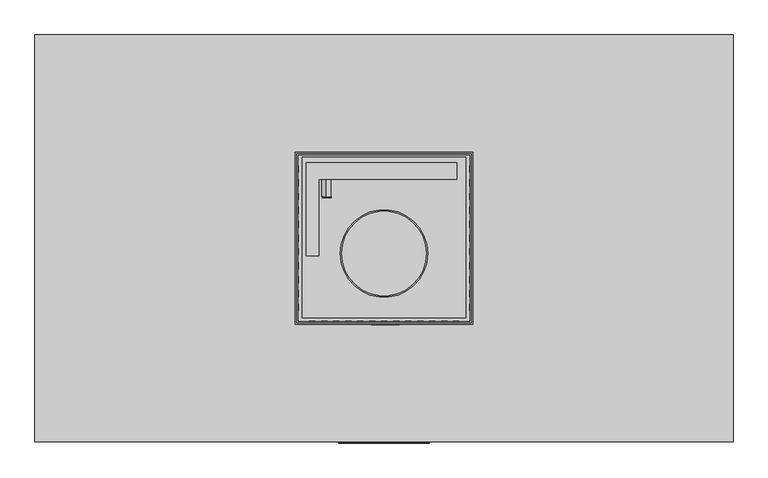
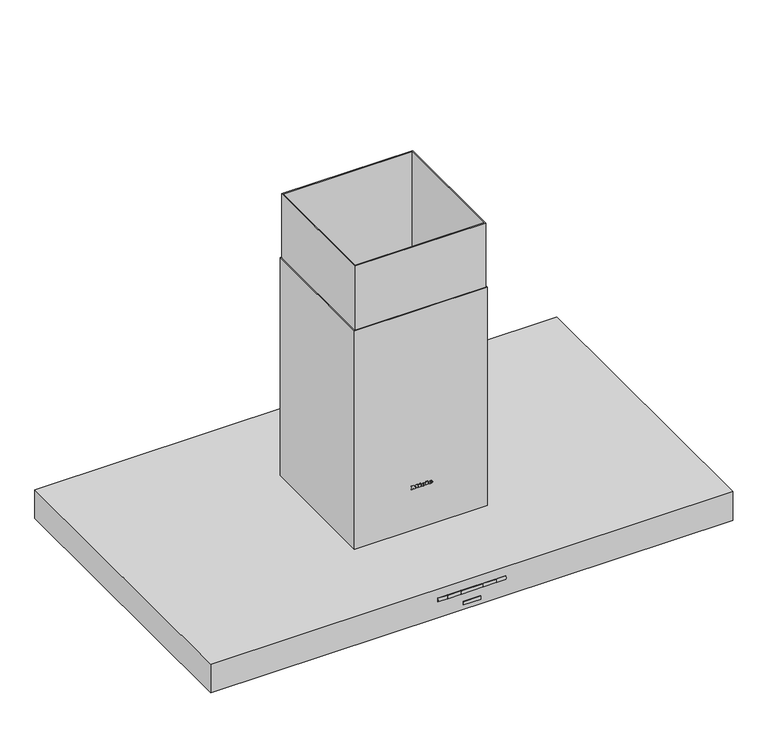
"""IFC4 building model written with IfcOpenShell, lengths in millimetres: proxy geometry, 10866570_CN_DA4248VDC_EDST : 28424855_CN_10866570_DA4248VDC_EDST."""

from ifc_helpers import new_model, si_unit, point, frame, frame_2d, origin, origin_with_axes, place, context, project, spatial, polyline, circle_curve, ellipse_curve, trimmed, segment, composite_curve, outline, extrude, faceted_brep, source, transform, mapped, element, save
from ifc_brep_helpers import plane_surface, cylinder_surface, revolved_surface, extruded_surface, advanced_brep


def specialty_equipment_4de7fc39(model_context):
    return source(origin(), model_context, "Body", "SolidModel", [
        advanced_brep(
        [(-520.0, -200.0, 7.0), (-493.4101907, -200.0, 11.6885008), (-546.5898093, -200.0, 2.3114992), (-493.9261123, -200.0, 10.5821033), (-545.7265913, -200.0, 1.4482812), (-519.8263518, -200.0, 6.0151922)],
        [
            (0, 1),
            (1, 2, circle_curve(frame((-520.0, -200.0, 7.0), z_axis=(-0.17364817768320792, 0.0, 0.9848077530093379), x_axis=(0.9848077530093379, 0.0, 0.17364817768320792)), 27.0)),
            (2, 0),
            (2, 1, circle_curve(frame((-520.0, -200.0, 7.0), z_axis=(-0.17364817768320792, 0.0, 0.9848077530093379), x_axis=(0.9848077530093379, 0.0, 0.17364817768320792)), 27.0)),
            (1, 3),
            (3, 4, circle_curve(frame((-519.8263518, -200.0, 6.0151922), z_axis=(-0.17364817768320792, 0.0, 0.9848077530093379), x_axis=(0.9848077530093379, 0.0, 0.17364817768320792)), 26.2997925)),
            (4, 2),
            (4, 3, circle_curve(frame((-519.8263518, -200.0, 6.0151922), z_axis=(-0.17364817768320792, 0.0, 0.9848077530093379), x_axis=(0.9848077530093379, 0.0, 0.17364817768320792)), 26.2997925)),
            (3, 5),
            (5, 4),
        ],
        [
            plane_surface(frame((-520.0, -200.0, 7.0), z_axis=(-0.17364817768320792, 0.0, 0.9848077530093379), x_axis=(0.9848077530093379, 0.0, 0.17364817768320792))),
            revolved_surface(polyline([(-493.9261123, -200.0, 10.5821033), (-493.4101907, -200.0, 11.6885008)]), (-520.0, -200.0, 7.0), (-0.17364817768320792, 0.0, 0.9848077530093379)),
            plane_surface(frame((-519.8263518, -200.0, 6.0151922), z_axis=(0.17364817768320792, 0.0, -0.9848077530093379), x_axis=(0.9848077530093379, 0.0, 0.17364817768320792))),
        ],
        [
            (0, [[1, 2, 3]]),
            (0, [[-3, 4, -1]]),
            (1, [[-2, 5, 6, 7]]),
            (1, [[-4, -7, 8, -5]]),
            (2, [[-6, 9, 10]]),
            (2, [[-8, -10, -9]]),
        ],
    ),
        advanced_brep(
        [(-546.5898093, 200.0, 2.3114992), (-493.4101907, 200.0, 11.6885008), (-520.0, 200.0, 7.0), (-545.7265913, 200.0, 1.4482812), (-493.9261123, 200.0, 10.5821033), (-519.8263518, 200.0, 6.0151922)],
        [
            (0, 1, circle_curve(frame((-520.0, 200.0, 7.0), z_axis=(-0.17364817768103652, 0.0, 0.9848077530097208), x_axis=(0.9848077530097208, 0.0, 0.17364817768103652)), 27.0)),
            (1, 2),
            (2, 0),
            (1, 0, circle_curve(frame((-520.0, 200.0, 7.0), z_axis=(-0.17364817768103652, 0.0, 0.9848077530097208), x_axis=(0.9848077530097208, 0.0, 0.17364817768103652)), 27.0)),
            (3, 4, circle_curve(frame((-519.8263518, 200.0, 6.0151922), z_axis=(-0.17364817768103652, 0.0, 0.9848077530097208), x_axis=(0.9848077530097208, 0.0, 0.17364817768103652)), 26.2997925)),
            (4, 1),
            (0, 3),
            (4, 3, circle_curve(frame((-519.8263518, 200.0, 6.0151922), z_axis=(-0.17364817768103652, 0.0, 0.9848077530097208), x_axis=(0.9848077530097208, 0.0, 0.17364817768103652)), 26.2997925)),
            (5, 4),
            (3, 5),
        ],
        [
            plane_surface(frame((-520.0, 200.0, 7.0), z_axis=(-0.17364817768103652, 0.0, 0.9848077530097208), x_axis=(0.9848077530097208, 0.0, 0.17364817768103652))),
            revolved_surface(polyline([(-493.4101907, 200.0, 11.6885008), (-493.9261123, 200.0, 10.5821033)]), (-520.0, 200.0, 7.0), (0.17364817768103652, 0.0, -0.9848077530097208)),
            plane_surface(frame((-519.8263518, 200.0, 6.0151922), z_axis=(0.17364817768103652, 0.0, -0.9848077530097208), x_axis=(0.9848077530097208, 0.0, 0.17364817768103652))),
        ],
        [
            (0, [[1, 2, 3]]),
            (0, [[4, -3, -2]]),
            (1, [[5, 6, -1, 7]]),
            (1, [[8, -7, -4, -6]]),
            (2, [[9, -5, 10]]),
            (2, [[-10, -8, -9]]),
        ],
    ),
        advanced_brep(
        [(546.5898093, -200.0, 2.3114992), (493.4101907, -200.0, 11.6885008), (520.0, -200.0, 7.0), (545.7265913, -200.0, 1.4482812), (493.9261123, -200.0, 10.5821033), (519.8263518, -200.0, 6.0151922)],
        [
            (0, 1, circle_curve(frame((520.0, -200.0, 7.0), z_axis=(0.17364817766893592, 0.0, 0.9848077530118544), x_axis=(-0.9848077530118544, 0.0, 0.17364817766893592)), 27.0)),
            (1, 2),
            (2, 0),
            (1, 0, circle_curve(frame((520.0, -200.0, 7.0), z_axis=(0.17364817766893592, 0.0, 0.9848077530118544), x_axis=(-0.9848077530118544, 0.0, 0.17364817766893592)), 27.0)),
            (3, 4, circle_curve(frame((519.8263518, -200.0, 6.0151922), z_axis=(0.17364817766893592, 0.0, 0.9848077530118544), x_axis=(-0.9848077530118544, 0.0, 0.17364817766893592)), 26.2997925)),
            (4, 1),
            (0, 3),
            (4, 3, circle_curve(frame((519.8263518, -200.0, 6.0151922), z_axis=(0.17364817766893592, 0.0, 0.9848077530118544), x_axis=(-0.9848077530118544, 0.0, 0.17364817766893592)), 26.2997925)),
            (5, 4),
            (3, 5),
        ],
        [
            plane_surface(frame((520.0, -200.0, 7.0), z_axis=(0.17364817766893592, 0.0, 0.9848077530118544), x_axis=(-0.9848077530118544, 0.0, 0.17364817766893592))),
            revolved_surface(polyline([(493.4101907, -200.0, 11.6885008), (493.9261123, -200.0, 10.5821033)]), (520.0, -200.0, 7.0), (-0.17364817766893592, 0.0, -0.9848077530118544)),
            plane_surface(frame((519.8263518, -200.0, 6.0151922), z_axis=(-0.17364817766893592, 0.0, -0.9848077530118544), x_axis=(-0.9848077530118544, 0.0, 0.17364817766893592))),
        ],
        [
            (0, [[1, 2, 3]]),
            (0, [[4, -3, -2]]),
            (1, [[5, 6, -1, 7]]),
            (1, [[8, -7, -4, -6]]),
            (2, [[9, -5, 10]]),
            (2, [[-10, -8, -9]]),
        ],
    ),
        advanced_brep(
        [(520.0, 200.0, 7.0), (493.4101907, 200.0, 11.6885008), (546.5898093, 200.0, 2.3114992), (493.9261123, 200.0, 10.5821033), (545.7265913, 200.0, 1.4482812), (519.8263518, 200.0, 6.0151922)],
        [
            (0, 1),
            (1, 2, circle_curve(frame((520.0, 200.0, 7.0), z_axis=(0.17364817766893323, 0.0, 0.9848077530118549), x_axis=(-0.9848077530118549, 0.0, 0.17364817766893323)), 27.0)),
            (2, 0),
            (2, 1, circle_curve(frame((520.0, 200.0, 7.0), z_axis=(0.17364817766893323, 0.0, 0.9848077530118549), x_axis=(-0.9848077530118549, 0.0, 0.17364817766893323)), 27.0)),
            (1, 3),
            (3, 4, circle_curve(frame((519.8263518, 200.0, 6.0151922), z_axis=(0.17364817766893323, 0.0, 0.9848077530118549), x_axis=(-0.9848077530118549, 0.0, 0.17364817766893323)), 26.2997925)),
            (4, 2),
            (4, 3, circle_curve(frame((519.8263518, 200.0, 6.0151922), z_axis=(0.17364817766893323, 0.0, 0.9848077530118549), x_axis=(-0.9848077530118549, 0.0, 0.17364817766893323)), 26.2997925)),
            (3, 5),
            (5, 4),
        ],
        [
            plane_surface(frame((520.0, 200.0, 7.0), z_axis=(0.17364817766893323, 0.0, 0.9848077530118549), x_axis=(-0.9848077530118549, 0.0, 0.17364817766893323))),
            revolved_surface(polyline([(493.9261123, 200.0, 10.5821033), (493.4101907, 200.0, 11.6885008)]), (520.0, 200.0, 7.0), (0.17364817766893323, 0.0, 0.9848077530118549)),
            plane_surface(frame((519.8263518, 200.0, 6.0151922), z_axis=(-0.17364817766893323, 0.0, -0.9848077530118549), x_axis=(-0.9848077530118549, 0.0, 0.17364817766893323))),
        ],
        [
            (0, [[1, 2, 3]]),
            (0, [[-3, 4, -1]]),
            (1, [[-2, 5, 6, 7]]),
            (1, [[-4, -7, 8, -5]]),
            (2, [[-6, 9, 10]]),
            (2, [[-8, -10, -9]]),
        ],
    ),
        faceted_brep([(-128.5, -142.5, 300.0), (-128.5, -145.0, 300.0), (-128.5, -145.0, 200.0), (-128.5, -142.5, 200.0), (150.0, 124.5, 300.0), (147.5, 124.5, 300.0), (147.5, 124.5, 200.0), (150.0, 124.5, 200.0), (-150.0, -145.0, 755.0), (-150.0, 145.0, 755.0), (-150.0, 145.0, 155.0), (-150.0, -145.0, 155.0), (-150.0, -124.5, 300.0), (-150.0, -124.5, 200.0), (-150.0, -112.6, 200.0), (-150.0, -112.6, 300.0), (-150.0, 124.5, 200.0), (-150.0, 124.5, 300.0), (-150.0, 113.5, 300.0), (-150.0, 113.5, 200.0), (-150.0, -100.7, 200.0), (-150.0, -88.8, 200.0), (-150.0, -88.8, 300.0), (-150.0, -100.7, 300.0), (-150.0, -65.0, 200.0), (-150.0, -65.0, 300.0), (-150.0, -76.9, 300.0), (-150.0, -76.9, 200.0), (-150.0, -53.1, 200.0), (-150.0, -41.2, 200.0), (-150.0, -41.2, 300.0), (-150.0, -53.1, 300.0), (-150.0, -29.3, 200.0), (-150.0, -17.4, 200.0), (-150.0, -17.4, 300.0), (-150.0, -29.3, 300.0), (-150.0, -5.5, 200.0), (-150.0, 6.4, 200.0), (-150.0, 6.4, 300.0), (-150.0, -5.5, 300.0), (-150.0, 30.2, 200.0), (-150.0, 30.2, 300.0), (-150.0, 18.3, 300.0), (-150.0, 18.3, 200.0), (-150.0, 42.1, 200.0), (-150.0, 54.0, 200.0), (-150.0, 54.0, 300.0), (-150.0, 42.1, 300.0), (-150.0, 77.8, 200.0), (-150.0, 77.8, 300.0), (-150.0, 65.9, 300.0), (-150.0, 65.9, 200.0), (-150.0, 89.7, 200.0), (-150.0, 101.6, 200.0), (-150.0, 101.6, 300.0), (-150.0, 89.7, 300.0), (147.5, -142.5, 755.0), (147.5, 142.5, 755.0), (147.5, 142.5, 155.0), (147.5, -142.5, 155.0), (147.5, -124.5, 300.0), (147.5, -124.5, 200.0), (147.5, -112.6, 200.0), (147.5, -112.6, 300.0), (147.5, 113.5, 300.0), (147.5, 113.5, 200.0), (147.5, -100.7, 300.0), (147.5, -100.7, 200.0), (147.5, -88.8, 200.0), (147.5, -88.8, 300.0), (147.5, -76.9, 300.0), (147.5, -76.9, 200.0), (147.5, -65.0, 200.0), (147.5, -65.0, 300.0), (147.5, -53.1, 300.0), (147.5, -53.1, 200.0), (147.5, -41.2, 200.0), (147.5, -41.2, 300.0), (147.5, -5.5, 300.0), (147.5, -5.5, 200.0), (147.5, 6.4, 200.0), (147.5, 6.4, 300.0), (147.5, -29.3, 300.0), (147.5, -29.3, 200.0), (147.5, -17.4, 200.0), (147.5, -17.4, 300.0), (147.5, 18.3, 300.0), (147.5, 18.3, 200.0), (147.5, 30.2, 200.0), (147.5, 30.2, 300.0), (147.5, 42.1, 300.0), (147.5, 42.1, 200.0), (147.5, 54.0, 200.0), (147.5, 54.0, 300.0), (147.5, 65.9, 300.0), (147.5, 65.9, 200.0), (147.5, 77.8, 200.0), (147.5, 77.8, 300.0), (147.5, 89.7, 300.0), (147.5, 89.7, 200.0), (147.5, 101.6, 200.0), (147.5, 101.6, 300.0), (150.0, -145.0, 755.0), (150.0, -145.0, 155.0), (128.5, -145.0, 300.0), (128.5, -145.0, 200.0), (118.7, -145.0, 200.0), (118.7, -145.0, 300.0), (-118.2, -145.0, 300.0), (-118.2, -145.0, 200.0), (-107.9, -145.0, 300.0), (-97.6, -145.0, 300.0), (-97.6, -145.0, 200.0), (-107.9, -145.0, 200.0), (-87.3, -145.0, 300.0), (-77.0, -145.0, 300.0), (-77.0, -145.0, 200.0), (-87.3, -145.0, 200.0), (-66.7, -145.0, 300.0), (-56.4, -145.0, 300.0), (-56.4, -145.0, 200.0), (-66.7, -145.0, 200.0), (-46.1, -145.0, 300.0), (-35.8, -145.0, 300.0), (-35.8, -145.0, 200.0), (-46.1, -145.0, 200.0), (-25.5, -145.0, 300.0), (-15.2, -145.0, 300.0), (-15.2, -145.0, 200.0), (-25.5, -145.0, 200.0), (15.7, -145.0, 300.0), (26.0, -145.0, 300.0), (26.0, -145.0, 200.0), (15.7, -145.0, 200.0), (98.1, -145.0, 300.0), (108.4, -145.0, 300.0), (108.4, -145.0, 200.0), (98.1, -145.0, 200.0), (36.3, -145.0, 300.0), (46.6, -145.0, 300.0), (46.6, -145.0, 200.0), (36.3, -145.0, 200.0), (-4.9, -145.0, 300.0), (5.4, -145.0, 300.0), (5.4, -145.0, 200.0), (-4.9, -145.0, 200.0), (56.9, -145.0, 300.0), (67.2, -145.0, 300.0), (67.2, -145.0, 200.0), (56.9, -145.0, 200.0), (77.5, -145.0, 300.0), (87.8, -145.0, 300.0), (87.8, -145.0, 200.0), (77.5, -145.0, 200.0), (-147.5, 142.5, 755.0), (-147.5, 142.5, 155.0), (150.0, 145.0, 755.0), (-147.5, -142.5, 755.0), (150.0, 145.0, 155.0), (-147.5, -142.5, 155.0), (128.5, -142.5, 200.0), (128.5, -142.5, 300.0), (118.7, -142.5, 300.0), (118.7, -142.5, 200.0), (-118.2, -142.5, 200.0), (-118.2, -142.5, 300.0), (-97.6, -142.5, 300.0), (-107.9, -142.5, 300.0), (-107.9, -142.5, 200.0), (-97.6, -142.5, 200.0), (-77.0, -142.5, 300.0), (-87.3, -142.5, 300.0), (-87.3, -142.5, 200.0), (-77.0, -142.5, 200.0), (-56.4, -142.5, 300.0), (-66.7, -142.5, 300.0), (-66.7, -142.5, 200.0), (-56.4, -142.5, 200.0), (-35.8, -142.5, 300.0), (-46.1, -142.5, 300.0), (-46.1, -142.5, 200.0), (-35.8, -142.5, 200.0), (-15.2, -142.5, 300.0), (-25.5, -142.5, 300.0), (-25.5, -142.5, 200.0), (-15.2, -142.5, 200.0), (5.4, -142.5, 300.0), (-4.9, -142.5, 300.0), (-4.9, -142.5, 200.0), (5.4, -142.5, 200.0), (26.0, -142.5, 300.0), (15.7, -142.5, 300.0), (15.7, -142.5, 200.0), (26.0, -142.5, 200.0), (46.6, -142.5, 300.0), (36.3, -142.5, 300.0), (36.3, -142.5, 200.0), (46.6, -142.5, 200.0), (67.2, -142.5, 300.0), (56.9, -142.5, 300.0), (56.9, -142.5, 200.0), (67.2, -142.5, 200.0), (87.8, -142.5, 300.0), (77.5, -142.5, 300.0), (77.5, -142.5, 200.0), (87.8, -142.5, 200.0), (108.4, -142.5, 300.0), (98.1, -142.5, 300.0), (98.1, -142.5, 200.0), (108.4, -142.5, 200.0), (-147.5, -124.5, 200.0), (-147.5, -124.5, 300.0), (-147.5, -112.6, 300.0), (-147.5, -112.6, 200.0), (-147.5, 124.5, 300.0), (-147.5, 124.5, 200.0), (-147.5, 113.5, 200.0), (-147.5, 113.5, 300.0), (-147.5, -88.8, 200.0), (-147.5, -100.7, 200.0), (-147.5, -100.7, 300.0), (-147.5, -88.8, 300.0), (-147.5, -65.0, 300.0), (-147.5, -65.0, 200.0), (-147.5, -76.9, 200.0), (-147.5, -76.9, 300.0), (-147.5, -41.2, 200.0), (-147.5, -53.1, 200.0), (-147.5, -53.1, 300.0), (-147.5, -41.2, 300.0), (-147.5, -17.4, 200.0), (-147.5, -29.3, 200.0), (-147.5, -29.3, 300.0), (-147.5, -17.4, 300.0), (-147.5, 6.4, 200.0), (-147.5, -5.5, 200.0), (-147.5, -5.5, 300.0), (-147.5, 6.4, 300.0), (-147.5, 30.2, 300.0), (-147.5, 30.2, 200.0), (-147.5, 18.3, 200.0), (-147.5, 18.3, 300.0), (-147.5, 54.0, 200.0), (-147.5, 42.1, 200.0), (-147.5, 42.1, 300.0), (-147.5, 54.0, 300.0), (-147.5, 77.8, 300.0), (-147.5, 77.8, 200.0), (-147.5, 65.9, 200.0), (-147.5, 65.9, 300.0), (-147.5, 101.6, 200.0), (-147.5, 89.7, 200.0), (-147.5, 89.7, 300.0), (-147.5, 101.6, 300.0), (150.0, 113.5, 200.0), (150.0, 113.5, 300.0), (150.0, -124.5, 200.0), (150.0, -124.5, 300.0), (150.0, -112.6, 300.0), (150.0, -112.6, 200.0), (150.0, -100.7, 200.0), (150.0, -100.7, 300.0), (150.0, -88.8, 300.0), (150.0, -88.8, 200.0), (150.0, -76.9, 200.0), (150.0, -76.9, 300.0), (150.0, -65.0, 300.0), (150.0, -65.0, 200.0), (150.0, -53.1, 200.0), (150.0, -53.1, 300.0), (150.0, -41.2, 300.0), (150.0, -41.2, 200.0), (150.0, -29.3, 200.0), (150.0, -29.3, 300.0), (150.0, -17.4, 300.0), (150.0, -17.4, 200.0), (150.0, -5.5, 200.0), (150.0, -5.5, 300.0), (150.0, 6.4, 300.0), (150.0, 6.4, 200.0), (150.0, 18.3, 200.0), (150.0, 18.3, 300.0), (150.0, 30.2, 300.0), (150.0, 30.2, 200.0), (150.0, 42.1, 200.0), (150.0, 42.1, 300.0), (150.0, 54.0, 300.0), (150.0, 54.0, 200.0), (150.0, 65.9, 200.0), (150.0, 65.9, 300.0), (150.0, 77.8, 300.0), (150.0, 77.8, 200.0), (150.0, 89.7, 200.0), (150.0, 89.7, 300.0), (150.0, 101.6, 300.0), (150.0, 101.6, 200.0)], [[[0, 1, 2, 3]], [[4, 5, 6, 7]], [[8, 9, 10, 11], [12, 13, 14, 15], [16, 17, 18, 19], [20, 21, 22, 23], [24, 25, 26, 27], [28, 29, 30, 31], [32, 33, 34, 35], [36, 37, 38, 39], [40, 41, 42, 43], [44, 45, 46, 47], [48, 49, 50, 51], [52, 53, 54, 55]], [[56, 57, 58, 59], [60, 61, 62, 63], [6, 5, 64, 65], [66, 67, 68, 69], [70, 71, 72, 73], [74, 75, 76, 77], [78, 79, 80, 81], [82, 83, 84, 85], [86, 87, 88, 89], [90, 91, 92, 93], [94, 95, 96, 97], [98, 99, 100, 101]], [[102, 8, 11, 103], [104, 105, 106, 107], [2, 1, 108, 109], [110, 111, 112, 113], [114, 115, 116, 117], [118, 119, 120, 121], [122, 123, 124, 125], [126, 127, 128, 129], [130, 131, 132, 133], [134, 135, 136, 137], [138, 139, 140, 141], [142, 143, 144, 145], [146, 147, 148, 149], [150, 151, 152, 153]], [[57, 154, 155, 58]], [[8, 102, 156, 9], [57, 56, 157, 154]], [[11, 10, 158, 103], [58, 155, 159, 59]], [[157, 56, 59, 159], [160, 161, 162, 163], [0, 3, 164, 165], [166, 167, 168, 169], [170, 171, 172, 173], [174, 175, 176, 177], [178, 179, 180, 181], [182, 183, 184, 185], [186, 187, 188, 189], [190, 191, 192, 193], [194, 195, 196, 197], [198, 199, 200, 201], [202, 203, 204, 205], [206, 207, 208, 209]], [[154, 157, 159, 155], [210, 211, 212, 213], [214, 215, 216, 217], [218, 219, 220, 221], [222, 223, 224, 225], [226, 227, 228, 229], [230, 231, 232, 233], [234, 235, 236, 237], [238, 239, 240, 241], [242, 243, 244, 245], [246, 247, 248, 249], [250, 251, 252, 253]], [[156, 102, 103, 158], [4, 7, 254, 255], [256, 257, 258, 259], [260, 261, 262, 263], [264, 265, 266, 267], [268, 269, 270, 271], [272, 273, 274, 275], [276, 277, 278, 279], [280, 281, 282, 283], [284, 285, 286, 287], [288, 289, 290, 291], [292, 293, 294, 295]], [[9, 156, 158, 10]], [[160, 105, 104, 161]], [[256, 61, 60, 257]], [[210, 13, 12, 211]], [[214, 17, 16, 215]], [[62, 259, 258, 63]], [[5, 4, 255, 64]], [[64, 255, 254, 65]], [[7, 6, 65, 254]], [[260, 67, 66, 261]], [[67, 260, 263, 68]], [[68, 263, 262, 69]], [[261, 66, 69, 262]], [[264, 71, 70, 265]], [[71, 264, 267, 72]], [[72, 267, 266, 73]], [[265, 70, 73, 266]], [[268, 75, 74, 269]], [[75, 268, 271, 76]], [[76, 271, 270, 77]], [[269, 74, 77, 270]], [[272, 83, 82, 273]], [[83, 272, 275, 84]], [[84, 275, 274, 85]], [[273, 82, 85, 274]], [[276, 79, 78, 277]], [[79, 276, 279, 80]], [[80, 279, 278, 81]], [[277, 78, 81, 278]], [[280, 87, 86, 281]], [[87, 280, 283, 88]], [[88, 283, 282, 89]], [[281, 86, 89, 282]], [[284, 91, 90, 285]], [[92, 287, 286, 93]], [[285, 90, 93, 286]], [[96, 291, 290, 97]], [[289, 94, 97, 290]], [[100, 295, 294, 101]], [[293, 98, 101, 294]], [[18, 217, 216, 19]], [[13, 210, 213, 14]], [[14, 213, 212, 15]], [[211, 12, 15, 212]], [[218, 21, 20, 219]], [[21, 218, 221, 22]], [[22, 221, 220, 23]], [[219, 20, 23, 220]], [[222, 25, 24, 223]], [[25, 222, 225, 26]], [[26, 225, 224, 27]], [[223, 24, 27, 224]], [[226, 29, 28, 227]], [[29, 226, 229, 30]], [[30, 229, 228, 31]], [[227, 28, 31, 228]], [[230, 33, 32, 231]], [[33, 230, 233, 34]], [[34, 233, 232, 35]], [[231, 32, 35, 232]], [[234, 37, 36, 235]], [[37, 234, 237, 38]], [[38, 237, 236, 39]], [[235, 36, 39, 236]], [[238, 41, 40, 239]], [[41, 238, 241, 42]], [[42, 241, 240, 43]], [[239, 40, 43, 240]], [[242, 45, 44, 243]], [[46, 245, 244, 47]], [[243, 44, 47, 244]], [[50, 249, 248, 51]], [[247, 48, 51, 248]], [[54, 253, 252, 55]], [[251, 52, 55, 252]], [[108, 165, 164, 109]], [[105, 160, 163, 106]], [[106, 163, 162, 107]], [[161, 104, 107, 162]], [[166, 111, 110, 167]], [[111, 166, 169, 112]], [[112, 169, 168, 113]], [[167, 110, 113, 168]], [[170, 115, 114, 171]], [[115, 170, 173, 116]], [[116, 173, 172, 117]], [[171, 114, 117, 172]], [[174, 119, 118, 175]], [[119, 174, 177, 120]], [[120, 177, 176, 121]], [[175, 118, 121, 176]], [[178, 123, 122, 179]], [[123, 178, 181, 124]], [[124, 181, 180, 125]], [[179, 122, 125, 180]], [[182, 127, 126, 183]], [[127, 182, 185, 128]], [[128, 185, 184, 129]], [[183, 126, 129, 184]], [[186, 143, 142, 187]], [[143, 186, 189, 144]], [[144, 189, 188, 145]], [[187, 142, 145, 188]], [[190, 131, 130, 191]], [[131, 190, 193, 132]], [[132, 193, 192, 133]], [[191, 130, 133, 192]], [[194, 139, 138, 195]], [[139, 194, 197, 140]], [[140, 197, 196, 141]], [[195, 138, 141, 196]], [[61, 256, 259, 62]], [[257, 60, 63, 258]], [[91, 284, 287, 92]], [[288, 95, 94, 289]], [[95, 288, 291, 96]], [[292, 99, 98, 293]], [[99, 292, 295, 100]], [[17, 214, 217, 18]], [[215, 16, 19, 216]], [[45, 242, 245, 46]], [[246, 49, 48, 247]], [[49, 246, 249, 50]], [[250, 53, 52, 251]], [[53, 250, 253, 54]], [[1, 0, 165, 108]], [[3, 2, 109, 164]], [[198, 147, 146, 199]], [[147, 198, 201, 148]], [[148, 201, 200, 149]], [[199, 146, 149, 200]], [[202, 151, 150, 203]], [[151, 202, 205, 152]], [[152, 205, 204, 153]], [[203, 150, 153, 204]], [[206, 135, 134, 207]], [[135, 206, 209, 136]], [[136, 209, 208, 137]], [[207, 134, 137, 208]]]),
        extrude(outline(polyline([(152.5, 147.5), (152.5, -147.5), (-152.5, -147.5), (-152.5, 147.5), (152.5, 147.5)]), holes=[polyline([(-150.0, 145.0), (-150.0, -145.0), (150.0, -145.0), (150.0, 145.0), (-150.0, 145.0)])]), frame((0.0, 0.0, 70.0), z_axis=(0.0, 0.0, 1.0), x_axis=(1.0, 0.0, 0.0)), (0.0, 0.0, 1.0), 530.0),
        extrude(outline(polyline([(148.6666667, 28.5), (-148.6666667, 28.5), (-148.6666667, 295.0), (148.6666667, 295.0), (148.6666667, 28.5)])), frame((0.0, 0.0, 6.2), z_axis=(0.0, 0.0, 1.0), x_axis=(1.0, 0.0, 0.0)), (0.0, 0.0, 1.0), 6.0),
        extrude(outline(polyline([(157.6666667, 19.5), (-157.6666667, 19.5), (-157.6666667, 304.0), (157.6666667, 304.0), (157.6666667, 19.5)]), holes=[polyline([(148.6666667, 28.5), (148.6666667, 295.0), (-148.6666667, 295.0), (-148.6666667, 28.5), (148.6666667, 28.5)])]), frame((0.0, 0.0, 4.7), z_axis=(0.0, 0.0, 1.0), x_axis=(1.0, 0.0, 0.0)), (0.0, 0.0, 1.0), 9.0),
        extrude(outline(polyline([(166.6666667, 28.5), (166.6666667, 295.0), (464.0, 295.0), (464.0, 28.5), (166.6666667, 28.5)])), frame((0.0, 0.0, 6.2), z_axis=(0.0, 0.0, 1.0), x_axis=(1.0, 0.0, 0.0)), (0.0, 0.0, 1.0), 6.0),
        extrude(outline(polyline([(157.6666667, 19.5), (157.6666667, 304.0), (473.0, 304.0), (473.0, 19.5), (157.6666667, 19.5)]), holes=[polyline([(166.6666667, 28.5), (464.0, 28.5), (464.0, 295.0), (166.6666667, 295.0), (166.6666667, 28.5)])]), frame((0.0, 0.0, 4.7), z_axis=(0.0, 0.0, 1.0), x_axis=(1.0, 0.0, 0.0)), (0.0, 0.0, 1.0), 9.0),
        extrude(outline(polyline([(-166.6666667, 28.5), (-464.0, 28.5), (-464.0, 295.0), (-166.6666667, 295.0), (-166.6666667, 28.5)])), frame((0.0, 0.0, 6.2), z_axis=(0.0, 0.0, 1.0), x_axis=(1.0, 0.0, 0.0)), (0.0, 0.0, 1.0), 6.0),
        extrude(outline(polyline([(-157.6666667, 19.5), (-473.0, 19.5), (-473.0, 304.0), (-157.6666667, 304.0), (-157.6666667, 19.5)]), holes=[polyline([(-166.6666667, 28.5), (-166.6666667, 295.0), (-464.0, 295.0), (-464.0, 28.5), (-166.6666667, 28.5)])]), frame((0.0, 0.0, 4.7), z_axis=(0.0, 0.0, 1.0), x_axis=(1.0, 0.0, 0.0)), (0.0, 0.0, 1.0), 9.0),
        extrude(outline(polyline([(148.6666667, -28.5), (148.6666667, -295.0), (-148.6666667, -295.0), (-148.6666667, -28.5), (148.6666667, -28.5)])), frame((0.0, 0.0, 1.2), z_axis=(0.0, 0.0, 1.0), x_axis=(1.0, 0.0, 0.0)), (0.0, 0.0, 1.0), 6.0),
        extrude(outline(polyline([(157.6666667, -19.5), (157.6666667, -304.0), (-157.6666667, -304.0), (-157.6666667, -19.5), (157.6666667, -19.5)]), holes=[polyline([(148.6666667, -28.5), (-148.6666667, -28.5), (-148.6666667, -295.0), (148.6666667, -295.0), (148.6666667, -28.5)])]), frame((0.0, 0.0, -0.3), z_axis=(0.0, 0.0, 1.0), x_axis=(1.0, 0.0, 0.0)), (0.0, 0.0, 1.0), 9.0),
        extrude(outline(polyline([(166.6666667, -28.5), (464.0, -28.5), (464.0, -295.0), (166.6666667, -295.0), (166.6666667, -28.5)])), frame((0.0, 0.0, 1.2), z_axis=(0.0, 0.0, 1.0), x_axis=(1.0, 0.0, 0.0)), (0.0, 0.0, 1.0), 6.0),
        extrude(outline(polyline([(157.6666667, -19.5), (473.0, -19.5), (473.0, -304.0), (157.6666667, -304.0), (157.6666667, -19.5)]), holes=[polyline([(166.6666667, -28.5), (166.6666667, -295.0), (464.0, -295.0), (464.0, -28.5), (166.6666667, -28.5)])]), frame((0.0, 0.0, -0.3), z_axis=(0.0, 0.0, 1.0), x_axis=(1.0, 0.0, 0.0)), (0.0, 0.0, 1.0), 9.0),
        extrude(outline(polyline([(-166.6666667, -28.5), (-166.6666667, -295.0), (-464.0, -295.0), (-464.0, -28.5), (-166.6666667, -28.5)])), frame((0.0, 0.0, 1.2), z_axis=(0.0, 0.0, 1.0), x_axis=(1.0, 0.0, 0.0)), (0.0, 0.0, 1.0), 6.0),
        extrude(outline(polyline([(-157.6666667, -19.5), (-157.6666667, -304.0), (-473.0, -304.0), (-473.0, -19.5), (-157.6666667, -19.5)]), holes=[polyline([(-166.6666667, -28.5), (-464.0, -28.5), (-464.0, -295.0), (-166.6666667, -295.0), (-166.6666667, -28.5)])]), frame((0.0, 0.0, -0.3), z_axis=(0.0, 0.0, 1.0), x_axis=(1.0, 0.0, 0.0)), (0.0, 0.0, 1.0), 9.0),
        extrude(outline(polyline([(16.5, 252.0), (-16.5, 252.0), (-16.5, 295.0), (16.5, 295.0), (16.5, 252.0)]), holes=[polyline([(10.0, 258.5), (10.0, 267.5), (-10.0, 267.5), (-10.0, 258.5), (10.0, 258.5)])]), frame((0.0, 0.0, 4.7), z_axis=(0.0, 0.0, 1.0), x_axis=(1.0, 0.0, 0.0)), (0.0, 0.0, 1.0), 1.5),
        extrude(outline(polyline([(298.8333333, 252.0), (298.8333333, 295.0), (331.8333333, 295.0), (331.8333333, 252.0), (298.8333333, 252.0)]), holes=[polyline([(305.5619005, 258.5), (325.1047662, 258.5), (325.1047662, 267.5), (305.5619005, 267.5), (305.5619005, 258.5)])]), frame((0.0, 0.0, 4.7), z_axis=(0.0, 0.0, 1.0), x_axis=(1.0, 0.0, 0.0)), (0.0, 0.0, 1.0), 1.5),
        extrude(outline(polyline([(-298.8333333, 252.0), (-331.8333333, 252.0), (-331.8333333, 295.0), (-298.8333333, 295.0), (-298.8333333, 252.0)]), holes=[polyline([(-305.3333333, 258.5), (-305.3333333, 267.5), (-325.3333333, 267.5), (-325.3333333, 258.5), (-305.3333333, 258.5)])]), frame((0.0, 0.0, 4.7), z_axis=(0.0, 0.0, 1.0), x_axis=(1.0, 0.0, 0.0)), (0.0, 0.0, 1.0), 1.5),
        extrude(outline(polyline([(16.5, -252.0), (16.5, -295.0), (-16.5, -295.0), (-16.5, -252.0), (16.5, -252.0)]), holes=[polyline([(10.0, -258.5), (-10.0, -258.5), (-10.0, -267.5), (10.0, -267.5), (10.0, -258.5)])]), frame((0.0, 0.0, -0.3), z_axis=(0.0, 0.0, 1.0), x_axis=(1.0, 0.0, 0.0)), (0.0, 0.0, 1.0), 1.5),
        extrude(outline(polyline([(298.8333333, -252.0), (331.8333333, -252.0), (331.8333333, -295.0), (298.8333333, -295.0), (298.8333333, -252.0)]), holes=[polyline([(305.3333333, -258.5), (305.3333333, -267.5), (325.1047662, -267.5), (325.1047662, -258.5), (305.3333333, -258.5)])]), frame((0.0, 0.0, -0.3), z_axis=(0.0, 0.0, 1.0), x_axis=(1.0, 0.0, 0.0)), (0.0, 0.0, 1.0), 1.5),
        extrude(outline(polyline([(-298.8333333, -252.0), (-298.8333333, -295.0), (-331.8333333, -295.0), (-331.8333333, -252.0), (-298.8333333, -252.0)]), holes=[polyline([(-305.3333333, -258.5), (-325.3333333, -258.5), (-325.3333333, -267.5), (-305.3333333, -267.5), (-305.3333333, -258.5)])]), frame((0.0, 0.0, -0.3), z_axis=(0.0, 0.0, 1.0), x_axis=(1.0, 0.0, 0.0)), (0.0, 0.0, 1.0), 1.5),
        extrude(outline(polyline([(473.5, 19.25), (473.5, -19.25), (-473.5, -19.25), (-473.5, 19.25), (473.5, 19.25)])), origin_with_axes(), (0.0, 0.0, 1.0), 10.0),
        faceted_brep([(599.0, 349.0, 70.0), (-599.0, 349.0, 70.0), (-599.0, -349.0, 70.0), (599.0, -349.0, 70.0), (599.0, 349.0, 0.0), (599.0, -349.0, 0.0), (-599.0, -349.0, 0.0), (-599.0, 349.0, 0.0), (-554.0, -304.0, 0.0), (554.0, -304.0, 0.0), (554.0, 304.0, 0.0), (-554.0, 304.0, 0.0), (-554.0, -304.0, 1.5006197), (-487.522412, -304.0, 13.222412), (-476.9, -304.0, 2.6), (-473.5, -304.0, 2.6), (-473.5, -304.0, 13.7), (473.5, -304.0, 13.7), (473.5, -304.0, 2.6), (476.9, -304.0, 2.6), (487.522412, -304.0, 13.222412), (554.0, -304.0, 1.5006197), (-554.0, 304.0, 1.5006197), (554.0, 304.0, 1.5006197), (487.522412, 304.0, 13.222412), (476.9, 304.0, 2.6), (473.5, 304.0, 2.6), (473.5, 304.0, 13.7), (-473.5, 304.0, 13.7), (-473.5, 304.0, 2.6), (-476.9, 304.0, 2.6), (-487.522412, 304.0, 13.222412)], [[[0, 1, 2, 3]], [[4, 5, 6, 7], [8, 9, 10, 11]], [[1, 0, 4, 7]], [[2, 1, 7, 6]], [[3, 2, 6, 5]], [[0, 3, 5, 4]], [[12, 13, 14, 15, 16, 17, 18, 19, 20, 21, 9, 8]], [[22, 11, 10, 23, 24, 25, 26, 27, 28, 29, 30, 31]], [[12, 8, 11, 22]], [[9, 21, 23, 10]], [[19, 18, 26, 25]], [[18, 17, 27, 26]], [[17, 16, 28, 27]], [[16, 15, 29, 28]], [[15, 14, 30, 29]], [[14, 13, 31, 30]], [[21, 20, 24, 23]], [[20, 19, 25, 24]], [[13, 12, 22, 31]]]),
        extrude(outline(polyline([(331.0, -106.3772603), (331.0, -99.0), (332.2557039, -99.0), (332.2557039, -105.1215564), (335.5519266, -105.1215564), (335.5519266, -99.470889), (336.8076304, -99.470889), (336.8076304, -105.1215564), (339.7899271, -105.1215564), (339.7899271, -99.156963), (341.045631, -99.156963), (341.045631, -106.3772603), (331.0, -106.3772603)])), frame((0.0, 70.0, 0.0), z_axis=(0.0, 1.0, 0.0), x_axis=(0.0, 0.0, 1.0)), (0.0, 0.0, 1.0), 1.0),
        extrude(outline(polyline([(331.0, -97.1164442), (331.0, -90.8379248), (332.2557039, -90.8379248), (332.2557039, -95.8607403), (341.045631, -95.8607403), (341.045631, -97.1164442), (331.0, -97.1164442)])), frame((0.0, 70.0, 0.0), z_axis=(0.0, 1.0, 0.0), x_axis=(0.0, 0.0, 1.0)), (0.0, 0.0, 1.0), 1.0),
        extrude(outline(composite_curve([segment(trimmed(circle_curve(frame_2d((336.0, -99.0)), 7.5), [point((328.5, -99.0))], [point((343.5, -99.0))], False, "CARTESIAN"), True, "CONTINUOUS"), segment(trimmed(circle_curve(frame_2d((336.0, -99.0)), 7.5), [point((343.5, -99.0))], [point((328.5, -99.0))], False, "CARTESIAN"), True, "CONTINUOUS")], self_intersect=False)), frame((0.0, 71.0, 0.0), z_axis=(0.0, 1.0, 0.0), x_axis=(0.0, 0.0, 1.0)), (0.0, 0.0, 1.0), 30.0),
        extrude(outline(composite_curve([segment(trimmed(circle_curve(frame_2d((0.0, -26.0)), 75.0), [point((-75.0, -26.0))], [point((75.0, -26.0))], False, "CARTESIAN"), True, "CONTINUOUS"), segment(trimmed(circle_curve(frame_2d((0.0, -26.0)), 75.0), [point((75.0, -26.0))], [point((-75.0, -26.0))], False, "CARTESIAN"), True, "CONTINUOUS")], self_intersect=False), holes=[composite_curve([segment(trimmed(circle_curve(frame_2d((0.0, -26.0)), 72.5), [point((-72.5, -26.0))], [point((72.5, -26.0))], True, "CARTESIAN"), True, "CONTINUOUS"), segment(trimmed(circle_curve(frame_2d((0.0, -26.0)), 72.5), [point((72.5, -26.0))], [point((-72.5, -26.0))], True, "CARTESIAN"), True, "CONTINUOUS")], self_intersect=False)]), frame((0.0, 0.0, 326.0), z_axis=(0.0, 0.0, 1.0), x_axis=(1.0, 0.0, 0.0)), (0.0, 0.0, 1.0), 28.0),
        extrude(outline(polyline([(140.0, 139.0), (140.0, -136.0), (-140.0, -136.0), (-140.0, 139.0), (140.0, 139.0)])), frame((0.0, 0.0, 70.0), z_axis=(0.0, 0.0, 1.0), x_axis=(1.0, 0.0, 0.0)), (0.0, 0.0, 1.0), 256.0),
        extrude(outline(polyline([(-133.6, 130.0), (124.5, 130.0), (124.5, 101.0), (-112.0, 101.0), (-112.0, -29.8128384), (-133.6, -29.8128384), (-133.6, 130.0)])), frame((0.0, 0.0, 326.0), z_axis=(0.0, 0.0, 1.0), x_axis=(1.0, 0.0, 0.0)), (0.0, 0.0, 1.0), 135.0),
        extrude(outline(composite_curve([segment(trimmed(circle_curve(frame_2d((-331.0150871, 16.0)), 20.2), [point((-350.8150871, 12.0))], [point((-350.8150871, 20.0))], False, "CARTESIAN"), True, "CONTINUOUS"), segment(polyline([(-350.8150871, 20.0), (-349.0, 20.0), (-349.0, 12.0), (-350.8150871, 12.0)]), True, "CONTINUOUS")], self_intersect=False)), frame((-20.0, 0.0, 0.0), z_axis=(1.0, 0.0, 0.0), x_axis=(0.0, 1.0, 0.0)), (0.0, 0.0, 1.0), 40.0),
        extrude(outline(composite_curve([segment(polyline([(-349.0, 40.0), (-350.8150871, 40.0)]), True, "CONTINUOUS"), segment(trimmed(circle_curve(frame_2d((-331.0150871, 44.0)), 20.2), [point((-350.8150871, 40.0))], [point((-350.8150871, 48.0))], False, "CARTESIAN"), True, "CONTINUOUS"), segment(polyline([(-350.8150871, 48.0), (-349.0, 48.0), (-349.0, 40.0)]), True, "CONTINUOUS")], self_intersect=False)), frame((57.0, 0.0, 0.0), z_axis=(1.0, 0.0, 0.0), x_axis=(0.0, 1.0, 0.0)), (0.0, 0.0, 1.0), 21.0),
        extrude(outline(composite_curve([segment(trimmed(circle_curve(frame_2d((-331.0150871, 44.0)), 20.2), [point((-350.8150871, 40.0))], [point((-350.8150871, 48.0))], False, "CARTESIAN"), True, "CONTINUOUS"), segment(polyline([(-350.8150871, 48.0), (-349.0, 48.0), (-349.0, 40.0), (-350.8150871, 40.0)]), True, "CONTINUOUS")], self_intersect=False)), frame((-78.0, 0.0, 0.0), z_axis=(1.0, 0.0, 0.0), x_axis=(0.0, 1.0, 0.0)), (0.0, 0.0, 1.0), 21.0),
        extrude(outline(composite_curve([segment(polyline([(-349.0, 40.0), (-350.8150871, 40.0)]), True, "CONTINUOUS"), segment(trimmed(circle_curve(frame_2d((-331.0150871, 44.0)), 20.2), [point((-350.8150871, 40.0))], [point((-350.8150871, 48.0))], False, "CARTESIAN"), True, "CONTINUOUS"), segment(polyline([(-350.8150871, 48.0), (-349.0, 48.0), (-349.0, 40.0)]), True, "CONTINUOUS")], self_intersect=False)), frame((-56.0, 0.0, 0.0), z_axis=(1.0, 0.0, 0.0), x_axis=(0.0, 1.0, 0.0)), (0.0, 0.0, 1.0), 30.0),
        extrude(outline(composite_curve([segment(polyline([(-349.0, 40.0), (-350.8150871, 40.0)]), True, "CONTINUOUS"), segment(trimmed(circle_curve(frame_2d((-331.0150871, 44.0)), 20.2), [point((-350.8150871, 40.0))], [point((-350.8150871, 48.0))], False, "CARTESIAN"), True, "CONTINUOUS"), segment(polyline([(-350.8150871, 48.0), (-349.0, 48.0), (-349.0, 40.0)]), True, "CONTINUOUS")], self_intersect=False)), frame((-25.0, 0.0, 0.0), z_axis=(1.0, 0.0, 0.0), x_axis=(0.0, 1.0, 0.0)), (0.0, 0.0, 1.0), 50.0),
        extrude(outline(composite_curve([segment(polyline([(-349.0, 40.0), (-350.8150871, 40.0)]), True, "CONTINUOUS"), segment(trimmed(circle_curve(frame_2d((-331.0150871, 44.0)), 20.2), [point((-350.8150871, 40.0))], [point((-350.8150871, 48.0))], False, "CARTESIAN"), True, "CONTINUOUS"), segment(polyline([(-350.8150871, 48.0), (-349.0, 48.0), (-349.0, 40.0)]), True, "CONTINUOUS")], self_intersect=False)), frame((26.0, 0.0, 0.0), z_axis=(1.0, 0.0, 0.0), x_axis=(0.0, 1.0, 0.0)), (0.0, 0.0, 1.0), 30.0),
        advanced_brep(
        [(21.104, -148.5, 171.896), (21.104, -148.5, 172.704), (26.456, -148.5, 172.704), (17.144, -148.5, 172.704), (19.344, -148.5, 170.0), (26.32, -148.5, 171.896), (23.904, -148.5, 171.896), (22.0, -148.5, 171.0), (21.104, -148.5, 173.728), (21.104, -148.5, 174.6), (22.472, -148.5, 174.6), (22.472, -148.5, 173.728), (21.104, -147.5, 171.896), (22.0, -147.5, 171.0), (23.904, -147.5, 171.896), (26.32, -147.5, 171.896), (19.344, -147.5, 170.0), (17.144, -147.5, 172.704), (26.456, -147.5, 172.704), (21.104, -147.5, 172.704), (21.104, -147.5, 173.728), (22.472, -147.5, 173.728), (22.472, -147.5, 174.6), (21.104, -147.5, 174.6)],
        [
            (0, 1),
            (1, 2),
            (2, 3, ellipse_curve(frame((21.8, -148.5, 172.704), z_axis=(0.0, -1.0, 0.0), x_axis=(-1.0, 0.0, 0.0)), 4.656, 3.848)),
            (3, 4, circle_curve(frame((20.2400436, -148.5, 172.976), z_axis=(0.0, -1.0, 0.0), x_axis=(0.0, 0.0, -1.0)), 3.1079688)),
            (4, 5, circle_curve(frame((21.7067936, -148.5, 175.088), z_axis=(0.0, -1.0, 0.0), x_axis=(0.0, 0.0, -1.0)), 5.6098607)),
            (5, 6),
            (6, 7, circle_curve(frame((22.3910588, -148.5, 172.64), z_axis=(0.0, 1.0, 0.0), x_axis=(0.0, 0.0, -1.0)), 1.6859795)),
            (7, 0, circle_curve(frame((22.0, -148.5, 171.896), z_axis=(0.0, 1.0, 0.0), x_axis=(0.0, 0.0, -1.0)), 0.896)),
            (8, 9),
            (9, 10, circle_curve(frame((21.788, -148.5, 174.6), z_axis=(0.0, 1.0, 0.0), x_axis=(0.0, 0.0, -1.0)), 0.684)),
            (10, 11),
            (11, 8),
            (12, 13, circle_curve(frame((22.0, -147.5, 171.896), z_axis=(0.0, -1.0, 0.0), x_axis=(0.0, 0.0, -1.0)), 0.896)),
            (13, 14, circle_curve(frame((22.3910588, -147.5, 172.64), z_axis=(0.0, -1.0, 0.0), x_axis=(0.0, 0.0, -1.0)), 1.6859795)),
            (14, 15),
            (15, 16, circle_curve(frame((21.7067936, -147.5, 175.088), z_axis=(0.0, 1.0, 0.0), x_axis=(0.0, 0.0, -1.0)), 5.6098607)),
            (16, 17, circle_curve(frame((20.2400436, -147.5, 172.976), z_axis=(0.0, 1.0, 0.0), x_axis=(0.0, 0.0, -1.0)), 3.1079688)),
            (17, 18, ellipse_curve(frame((21.8, -147.5, 172.704), z_axis=(0.0, 1.0, 0.0), x_axis=(-1.0, 0.0, 0.0)), 4.656, 3.848)),
            (18, 19),
            (19, 12),
            (20, 21),
            (21, 22),
            (22, 23, circle_curve(frame((21.788, -147.5, 174.6), z_axis=(0.0, -1.0, 0.0), x_axis=(0.0, 0.0, -1.0)), 0.684)),
            (23, 20),
            (0, 12),
            (19, 1),
            (18, 2),
            (5, 15),
            (14, 6),
            (17, 3),
            (13, 7),
            (16, 4),
            (8, 20),
            (23, 9),
            (22, 10),
            (21, 11),
        ],
        [
            plane_surface(frame((21.104, -148.5, 172.704), z_axis=(0.0, -1.0, 0.0), x_axis=(0.0, 0.0, 1.0))),
            plane_surface(frame((21.104, -147.5, 172.704), z_axis=(0.0, 1.0, 0.0), x_axis=(0.0, 0.0, -1.0))),
            plane_surface(frame((21.104, -148.5, 171.896), z_axis=(1.0, 0.0, 0.0), x_axis=(0.0, 1.0, 0.0))),
            plane_surface(frame((21.104, -148.5, 172.704), z_axis=(0.0, 0.0, -1.0), x_axis=(0.0, 1.0, 0.0))),
            plane_surface(frame((26.32, -148.5, 171.896), z_axis=(0.0, 0.0, 1.0), x_axis=(0.0, 1.0, 0.0))),
            extruded_surface(trimmed(ellipse_curve(frame((21.8, -146.5, 172.704), z_axis=(0.0, -1.0, 0.0), x_axis=(-1.0, 0.0, 0.0)), 4.656, 3.848), [point((26.456, -146.5, 172.704))], [point((17.144, -146.5, 172.704))], True, "CARTESIAN"), (0.0, -1.0, 0.0), 1.0),
            revolved_surface(polyline([(22.3910588, -147.5, 170.95402049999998), (22.3910588, -148.5, 170.95402049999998)]), (22.3910588, -147.5, 172.64), (0.0, 1.0, 0.0)),
            revolved_surface(polyline([(22.0, -147.5, 171.0), (22.0, -148.5, 171.0)]), (22.0, -147.5, 171.896), (0.0, 1.0, 0.0)),
            cylinder_surface(frame((20.2400436, -147.5, 172.976), z_axis=(0.0, -1.0, 0.0), x_axis=(0.0, 0.0, -1.0)), 3.1079688),
            cylinder_surface(frame((21.7067936, -147.5, 175.088), z_axis=(0.0, -1.0, 0.0), x_axis=(0.0, 0.0, -1.0)), 5.6098607),
            plane_surface(frame((21.104, -148.5, 173.728), z_axis=(1.0, 0.0, 0.0), x_axis=(0.0, 1.0, 0.0))),
            revolved_surface(polyline([(21.788, -147.5, 173.916), (21.788, -148.5, 173.916)]), (21.788, -147.5, 174.6), (0.0, 1.0, 0.0)),
            plane_surface(frame((22.472, -148.5, 174.6), z_axis=(-1.0, 0.0, 0.0), x_axis=(0.0, 1.0, 0.0))),
            plane_surface(frame((22.472, -148.5, 173.728), z_axis=(0.0, 0.0, 1.0), x_axis=(0.0, 1.0, 0.0))),
        ],
        [
            (0, [[1, 2, 3, 4, 5, 6, 7, 8], [9, 10, 11, 12]]),
            (1, [[13, 14, 15, 16, 17, 18, 19, 20], [21, 22, 23, 24]]),
            (2, [[-1, 25, -20, 26]]),
            (3, [[-2, -26, -19, 27]]),
            (4, [[-6, 28, -15, 29]]),
            (5, [[-3, -27, -18, 30]]),
            (6, [[-7, -29, -14, 31]]),
            (7, [[-8, -31, -13, -25]]),
            (8, [[-4, -30, -17, 32]]),
            (9, [[-5, -32, -16, -28]]),
            (10, [[-9, 33, -24, 34]]),
            (11, [[-10, -34, -23, 35]]),
            (12, [[-11, -35, -22, 36]]),
            (13, [[-12, -36, -21, -33]]),
        ],
    ),
        advanced_brep(
        [(4.408, -148.5, 171.896), (4.408, -148.5, 172.704), (9.76, -148.5, 172.704), (0.448, -148.5, 172.704), (2.648, -148.5, 170.0), (9.624, -148.5, 171.896), (7.208, -148.5, 171.896), (5.304, -148.5, 171.0), (4.408, -148.5, 173.728), (4.408, -148.5, 174.6), (5.776, -148.5, 174.6), (5.776, -148.5, 173.728), (4.408, -147.5, 171.896), (5.304, -147.5, 171.0), (7.208, -147.5, 171.896), (9.624, -147.5, 171.896), (2.648, -147.5, 170.0), (0.448, -147.5, 172.704), (9.76, -147.5, 172.704), (4.408, -147.5, 172.704), (4.408, -147.5, 173.728), (5.776, -147.5, 173.728), (5.776, -147.5, 174.6), (4.408, -147.5, 174.6)],
        [
            (0, 1),
            (1, 2),
            (2, 3, ellipse_curve(frame((5.104, -148.5, 172.704), z_axis=(0.0, -1.0, 0.0), x_axis=(-1.0, 0.0, 0.0)), 4.656, 3.848)),
            (3, 4, circle_curve(frame((3.5440436, -148.5, 172.976), z_axis=(0.0, -1.0, 0.0), x_axis=(0.0, 0.0, -1.0)), 3.1079688)),
            (4, 5, circle_curve(frame((5.0107936, -148.5, 175.088), z_axis=(0.0, -1.0, 0.0), x_axis=(0.0, 0.0, -1.0)), 5.6098607)),
            (5, 6),
            (6, 7, circle_curve(frame((5.6950588, -148.5, 172.64), z_axis=(0.0, 1.0, 0.0), x_axis=(0.0, 0.0, -1.0)), 1.6859795)),
            (7, 0, circle_curve(frame((5.304, -148.5, 171.896), z_axis=(0.0, 1.0, 0.0), x_axis=(0.0, 0.0, -1.0)), 0.896)),
            (8, 9),
            (9, 10, circle_curve(frame((5.092, -148.5, 174.6), z_axis=(0.0, 1.0, 0.0), x_axis=(0.0, 0.0, -1.0)), 0.684)),
            (10, 11),
            (11, 8),
            (12, 13, circle_curve(frame((5.304, -147.5, 171.896), z_axis=(0.0, -1.0, 0.0), x_axis=(0.0, 0.0, -1.0)), 0.896)),
            (13, 14, circle_curve(frame((5.6950588, -147.5, 172.64), z_axis=(0.0, -1.0, 0.0), x_axis=(0.0, 0.0, -1.0)), 1.6859795)),
            (14, 15),
            (15, 16, circle_curve(frame((5.0107936, -147.5, 175.088), z_axis=(0.0, 1.0, 0.0), x_axis=(0.0, 0.0, -1.0)), 5.6098607)),
            (16, 17, circle_curve(frame((3.5440436, -147.5, 172.976), z_axis=(0.0, 1.0, 0.0), x_axis=(0.0, 0.0, -1.0)), 3.1079688)),
            (17, 18, ellipse_curve(frame((5.104, -147.5, 172.704), z_axis=(0.0, 1.0, 0.0), x_axis=(-1.0, 0.0, 0.0)), 4.656, 3.848)),
            (18, 19),
            (19, 12),
            (20, 21),
            (21, 22),
            (22, 23, circle_curve(frame((5.092, -147.5, 174.6), z_axis=(0.0, -1.0, 0.0), x_axis=(0.0, 0.0, -1.0)), 0.684)),
            (23, 20),
            (0, 12),
            (19, 1),
            (18, 2),
            (5, 15),
            (14, 6),
            (17, 3),
            (13, 7),
            (16, 4),
            (8, 20),
            (23, 9),
            (22, 10),
            (21, 11),
        ],
        [
            plane_surface(frame((4.408, -148.5, 172.704), z_axis=(0.0, -1.0, 0.0), x_axis=(0.0, 0.0, 1.0))),
            plane_surface(frame((4.408, -147.5, 172.704), z_axis=(0.0, 1.0, 0.0), x_axis=(0.0, 0.0, -1.0))),
            plane_surface(frame((4.408, -148.5, 171.896), z_axis=(1.0, 0.0, 0.0), x_axis=(0.0, 1.0, 0.0))),
            plane_surface(frame((4.408, -148.5, 172.704), z_axis=(0.0, 0.0, -1.0), x_axis=(0.0, 1.0, 0.0))),
            plane_surface(frame((9.624, -148.5, 171.896), z_axis=(0.0, 0.0, 1.0), x_axis=(0.0, 1.0, 0.0))),
            extruded_surface(trimmed(ellipse_curve(frame((5.104, -146.5, 172.704), z_axis=(0.0, -1.0, 0.0), x_axis=(-1.0, 0.0, 0.0)), 4.656, 3.848), [point((9.76, -146.5, 172.704))], [point((0.448, -146.5, 172.704))], True, "CARTESIAN"), (0.0, -1.0, 0.0), 1.0),
            revolved_surface(polyline([(5.6950588, -147.5, 170.95402049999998), (5.6950588, -148.5, 170.95402049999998)]), (5.6950588, -147.5, 172.64), (0.0, 1.0, 0.0)),
            revolved_surface(polyline([(5.304, -147.5, 171.0), (5.304, -148.5, 171.0)]), (5.304, -147.5, 171.896), (0.0, 1.0, 0.0)),
            cylinder_surface(frame((3.5440436, -147.5, 172.976), z_axis=(0.0, -1.0, 0.0), x_axis=(0.0, 0.0, -1.0)), 3.1079688),
            cylinder_surface(frame((5.0107936, -147.5, 175.088), z_axis=(0.0, -1.0, 0.0), x_axis=(0.0, 0.0, -1.0)), 5.6098607),
            plane_surface(frame((4.408, -148.5, 173.728), z_axis=(1.0, 0.0, 0.0), x_axis=(0.0, 1.0, 0.0))),
            revolved_surface(polyline([(5.092, -147.5, 173.916), (5.092, -148.5, 173.916)]), (5.092, -147.5, 174.6), (0.0, 1.0, 0.0)),
            plane_surface(frame((5.776, -148.5, 174.6), z_axis=(-1.0, 0.0, 0.0), x_axis=(0.0, 1.0, 0.0))),
            plane_surface(frame((5.776, -148.5, 173.728), z_axis=(0.0, 0.0, 1.0), x_axis=(0.0, 1.0, 0.0))),
        ],
        [
            (0, [[1, 2, 3, 4, 5, 6, 7, 8], [9, 10, 11, 12]]),
            (1, [[13, 14, 15, 16, 17, 18, 19, 20], [21, 22, 23, 24]]),
            (2, [[-1, 25, -20, 26]]),
            (3, [[-2, -26, -19, 27]]),
            (4, [[-6, 28, -15, 29]]),
            (5, [[-3, -27, -18, 30]]),
            (6, [[-7, -29, -14, 31]]),
            (7, [[-8, -31, -13, -25]]),
            (8, [[-4, -30, -17, 32]]),
            (9, [[-5, -32, -16, -28]]),
            (10, [[-9, 33, -24, 34]]),
            (11, [[-10, -34, -23, 35]]),
            (12, [[-11, -35, -22, 36]]),
            (13, [[-12, -36, -21, -33]]),
        ],
    ),
        extrude(outline(polyline([(177.528, -4.336), (176.232, -3.728), (177.496, -1.016), (178.792, -1.616), (177.528, -4.336)])), frame((0.0, -148.5, 0.0), z_axis=(0.0, 1.0, 0.0), x_axis=(0.0, 0.0, 1.0)), (0.0, 0.0, 1.0), 1.0),
        extrude(outline(polyline([(176.056, -6.312), (174.624, -6.312), (174.624, -5.36), (171.344, -5.36), (171.344, -6.312), (170.0, -6.312), (170.0, 0.0), (171.344, 0.0), (171.344, -0.928), (176.056, -0.928), (176.056, -6.312)])), frame((0.0, -148.5, 0.0), z_axis=(0.0, 1.0, 0.0), x_axis=(0.0, 0.0, 1.0)), (0.0, 0.0, 1.0), 1.0),
        extrude(outline(polyline([(176.696, 10.208), (176.696, 11.168), (171.344, 11.168), (171.344, 10.208), (170.0, 10.208), (170.0, 16.696), (171.344, 16.696), (171.344, 15.712), (178.0, 15.712), (178.0, 10.208), (176.696, 10.208)])), frame((0.0, -148.5, 0.0), z_axis=(0.0, 1.0, 0.0), x_axis=(0.0, 0.0, 1.0)), (0.0, 0.0, 1.0), 1.0),
        extrude(outline(polyline([(176.696, -22.256), (176.696, -21.288), (171.344, -21.288), (171.344, -22.256), (170.0, -22.256), (170.0, -18.736), (171.344, -18.736), (171.344, -19.696), (174.7471247, -19.696), (170.0, -16.12), (174.8152223, -12.528), (171.344, -12.528), (171.344, -13.512), (170.0, -13.512), (170.0, -7.128), (171.344, -7.128), (171.344, -8.144), (176.696, -8.144), (176.696, -7.128), (178.0, -7.128), (178.0, -12.0), (175.0, -14.336), (178.0, -16.68), (178.0, -22.256), (176.696, -22.256)])), frame((0.0, -148.5, 0.0), z_axis=(0.0, 1.0, 0.0), x_axis=(0.0, 0.0, 1.0)), (0.0, 0.0, 1.0), 1.0),
    ])


if __name__ == "__main__":
    model = new_model("IFC4")
    model_context = context("Model", 3, world=origin())
    ifc_project = project(units=[si_unit("LENGTHUNIT", "METRE", prefix="MILLI")], contexts=[model_context])
    site = spatial("IfcSite", under=ifc_project)
    building = spatial("IfcBuilding", under=site)
    placement = place(None, origin())
    specialty_equipment_shape = specialty_equipment_4de7fc39(model_context)
    element("IfcBuildingElementProxy", 1, Name="10866570_CN_DA4248VDC_EDST : 28424855_CN_10866570_DA4248VDC_EDST", ObjectType="10866570_CN_DA4248VDC_EDST : 28424855_CN_10866570_DA4248VDC_EDST", at=placement, inside=building, context=model_context, shape_type="MappedRepresentation", body=[
        mapped(specialty_equipment_shape, transform((0.0, 0.0, 0.0), x_axis=(1.0, 0.0, 0.0), y_axis=(0.0, 1.0, 0.0), z_axis=(0.0, 0.0, 1.0))),
    ])
    save(model, "model.ifc")
